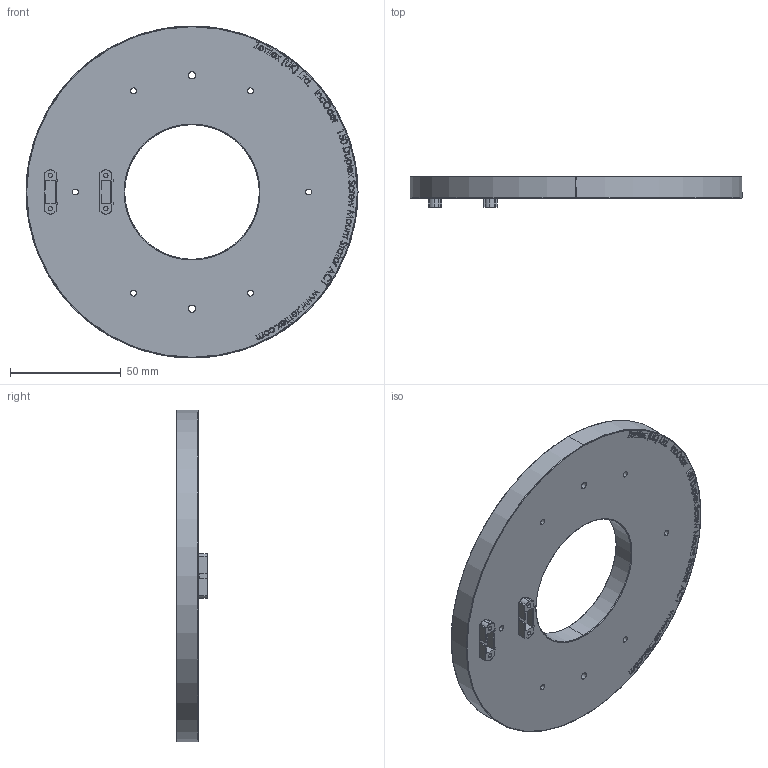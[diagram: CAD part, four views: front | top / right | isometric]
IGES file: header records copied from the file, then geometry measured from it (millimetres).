
Start section: SolidWorks IGES file using analytic representation for surfaces
Global section: file name: C:\Zettlex Data\Mechanical Drawings\1011\150 Duplex Screw Mount Stator AC1 Rev 1-2.IGS; native system: SolidWorks 2015; preprocessor: SolidWorks 2015; author: Nigel; date: 150914.153214; units: millimetre
Bounding box: 150 x 13.8 x 150 mm (x, y, z)
Surface area: 37619.5 mm2 (no closed solid volume)
Topology: 0 solids, 0 shells, 906 faces, 10725 edges, 10725 vertices
Faces by surface type: bspline 853, revolution 53
